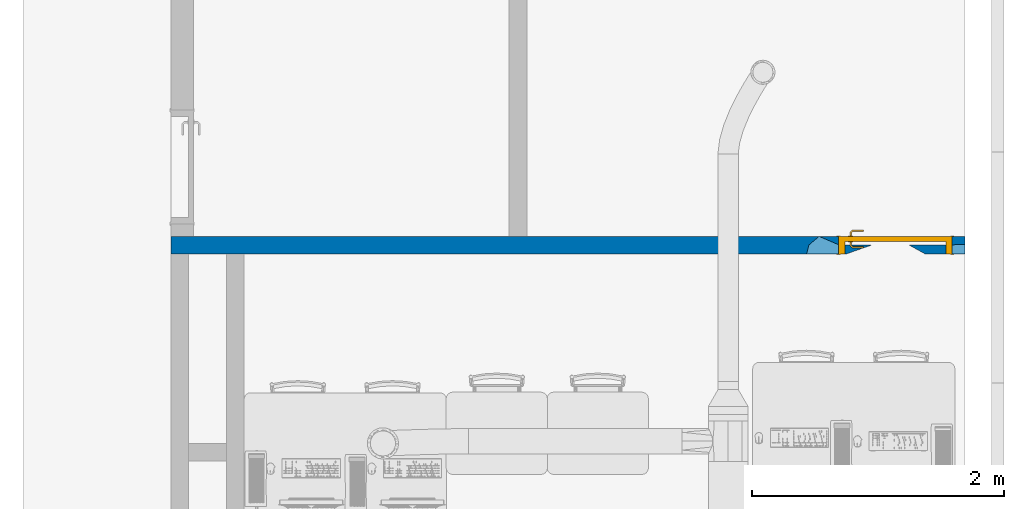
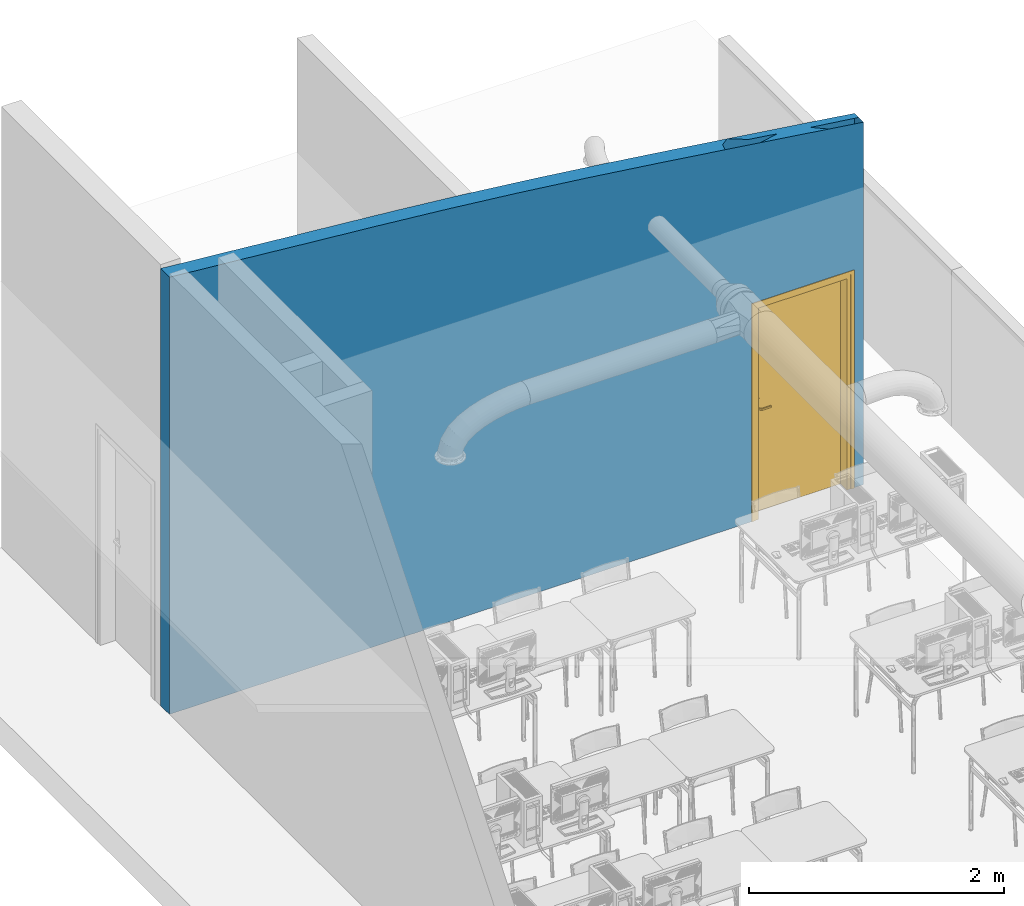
# One storey, part 4 of 31: 1 door, 1 wall, 1 opening.
"""IFC2X3 building model written with IfcOpenShell, lengths in millimetres."""

from ifc_helpers import new_model, entity, si_unit, converted_unit, derived_unit, direction, frame, frame_2d, origin, place, context, subcontext, project, spatial, rectangle, extrude, faceted_brep, source, transform, mapped, material, material_list, layer, layer_set, type_object, type_shapes, element, fill, save


model = new_model("IFC2X3")

# Units and contexts
model_context = context("Model", 3, precision=0.01, world=origin(), true_north=direction((6.123031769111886e-17, 1.0)))
body_context = subcontext(model_context, "Body", "Model", "MODEL_VIEW")
ifc_project = project(units=[si_unit("LENGTHUNIT", "METRE", prefix="MILLI"), si_unit("AREAUNIT", "SQUARE_METRE"), si_unit("VOLUMEUNIT", "CUBIC_METRE"), converted_unit("PLANEANGLEUNIT", "DEGREE", entity("IfcRatioMeasure", 0.017453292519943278), si_unit("PLANEANGLEUNIT", "RADIAN"), dimensions=[0, 0, 0, 0, 0, 0, 0]), si_unit("MASSUNIT", "GRAM", prefix="KILO"), derived_unit("MASSDENSITYUNIT", [(si_unit("MASSUNIT", "GRAM", prefix="KILO"), 1), (si_unit("LENGTHUNIT", "METRE"), -3)]), derived_unit("MOMENTOFINERTIAUNIT", [(si_unit("LENGTHUNIT", "METRE"), 4)]), si_unit("TIMEUNIT", "SECOND"), si_unit("FREQUENCYUNIT", "HERTZ"), si_unit("THERMODYNAMICTEMPERATUREUNIT", "DEGREE_CELSIUS"), derived_unit("THERMALTRANSMITTANCEUNIT", [(si_unit("MASSUNIT", "GRAM", prefix="KILO"), 1), (si_unit("THERMODYNAMICTEMPERATUREUNIT", "KELVIN"), -1), (si_unit("TIMEUNIT", "SECOND"), -3)]), derived_unit("VOLUMETRICFLOWRATEUNIT", [(si_unit("LENGTHUNIT", "METRE"), 3), (si_unit("TIMEUNIT", "SECOND"), -1)]), derived_unit("MASSFLOWRATEUNIT", [(si_unit("MASSUNIT", "GRAM", prefix="KILO"), 1), (si_unit("TIMEUNIT", "SECOND"), -1)]), derived_unit("ROTATIONALFREQUENCYUNIT", [(si_unit("TIMEUNIT", "SECOND"), -1)]), si_unit("ELECTRICCURRENTUNIT", "AMPERE"), si_unit("ELECTRICVOLTAGEUNIT", "VOLT"), si_unit("POWERUNIT", "WATT"), si_unit("FORCEUNIT", "NEWTON", prefix="KILO"), si_unit("ILLUMINANCEUNIT", "LUX"), si_unit("LUMINOUSFLUXUNIT", "LUMEN"), si_unit("LUMINOUSINTENSITYUNIT", "CANDELA"), derived_unit("USERDEFINED", [(si_unit("MASSUNIT", "GRAM", prefix="KILO"), -1), (si_unit("LENGTHUNIT", "METRE"), -2), (si_unit("TIMEUNIT", "SECOND"), 3), (si_unit("LUMINOUSFLUXUNIT", "LUMEN"), 1)]), derived_unit("SOUNDPOWERUNIT", [(si_unit("MASSUNIT", "GRAM", prefix="KILO"), 1), (si_unit("LENGTHUNIT", "METRE"), 2), (si_unit("TIMEUNIT", "SECOND"), -3)]), derived_unit("SOUNDPRESSUREUNIT", [(si_unit("MASSUNIT", "GRAM", prefix="KILO"), 1), (si_unit("LENGTHUNIT", "METRE"), -1), (si_unit("TIMEUNIT", "SECOND"), -2)]), derived_unit("LINEARVELOCITYUNIT", [(si_unit("LENGTHUNIT", "METRE"), 1), (si_unit("TIMEUNIT", "SECOND"), -1)]), si_unit("PRESSUREUNIT", "PASCAL"), derived_unit("USERDEFINED", [(si_unit("LENGTHUNIT", "METRE"), -2), (si_unit("MASSUNIT", "GRAM", prefix="KILO"), 1), (si_unit("TIMEUNIT", "SECOND"), -2)]), derived_unit("LINEARFORCEUNIT", [(si_unit("MASSUNIT", "GRAM", prefix="KILO"), 1), (si_unit("LENGTHUNIT", "METRE"), 1), (si_unit("TIMEUNIT", "SECOND"), -2), (si_unit("LENGTHUNIT", "METRE"), -1)]), derived_unit("PLANARFORCEUNIT", [(si_unit("MASSUNIT", "GRAM", prefix="KILO"), 1), (si_unit("LENGTHUNIT", "METRE"), 1), (si_unit("TIMEUNIT", "SECOND"), -2), (si_unit("LENGTHUNIT", "METRE"), -2)])], contexts=[model_context])

# Site, building, storey
site_placement = place(None, origin())
site = spatial("IfcSite", under=ifc_project, at=site_placement, Name="Default", CompositionType="ELEMENT")
building_placement = place(site_placement, origin())
building = spatial("IfcBuilding", under=site, at=building_placement, CompositionType="ELEMENT")
storey_placement = place(building_placement, frame((0.0, 0.0, 3880.0)))
storey = spatial("IfcBuildingStorey", under=building, at=storey_placement, Name="Niveau 1", CompositionType="ELEMENT", Elevation=3880.0)

# Wall, opening, door
ifc_material_1 = material(Name="Peinture")
ifc_layer = layer(ifc_material_1, 140.0)
ifc_layer_set = layer_set([ifc_layer], Name="Mur de base:Générique - 140 mm")
wall_type = type_object("IfcWallType", Name="Mur de base:Générique - 140 mm", PredefinedType="STANDARD", material=ifc_layer_set)
wall_placement = place(storey_placement, frame((-320.0, -2890.0, 0.0), z_axis=(0.0, 0.0, 1.0), x_axis=(-1.0, 0.0, 0.0)))
wall = element("IfcWall", 1, at=wall_placement, inside=storey, type_object=wall_type, Name="Mur de base:Générique - 140 mm", ObjectType="Mur de base:Générique - 140 mm", context=body_context, shape_type="Brep", body=[
    faceted_brep([(3610.0, -70.0, 0.0), (3470.0, -70.0, 0.0), (1000.0, -70.0, 0.0), (1000.0, 70.0, 0.0), (5710.0, 70.0, 0.0), (5850.0, 70.0, 0.0), (6150.0, 70.0, 0.0), (6290.0, 70.0, 0.0), (6290.0, -70.0, 0.0), (6110.0, -70.0, 0.0), (100.0, -70.0, 0.0), (0.0, -70.0, 0.0), (0.0, 70.0, 0.0), (100.0, 70.0, 0.0), (100.0, -70.0, 2075.0), (1000.0, -70.0, 2075.0), (6290.0, -70.0, 4189.61136390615), (6159.017165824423, -70.0, 4178.25464444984), (6021.568349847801, -70.0, 4166.337299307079), (5887.35252477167, -70.0, 4154.7002670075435), (5753.1366996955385, -70.0, 4143.06323470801), (5619.255191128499, -70.0, 4130.776297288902), (5485.37368256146, -70.0, 4118.4893598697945), (5351.49217399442, -70.0, 4106.202422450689), (5217.610665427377, -70.0, 4093.915485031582), (5083.441722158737, -70.0, 4082.0106236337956), (4949.272778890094, -70.0, 4070.1057622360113), (4815.103835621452, -70.0, 4058.200900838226), (4680.93489235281, -70.0, 4046.2960394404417), (4547.308556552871, -70.0, 4034.1394434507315), (4413.682220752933, -70.0, 4021.982847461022), (4280.055884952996, -70.0, 4009.8262514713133), (4146.429549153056, -70.0, 3997.6696554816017), (4012.322161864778, -70.0, 3984.2937266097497), (3878.2147745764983, -70.0, 3970.9177977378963), (3744.107387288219, -70.0, 3957.541868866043), (3610.0, -70.0, 3944.165939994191), (3540.009928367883, -70.0, 3936.776590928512), (3470.0, -70.0, 3929.2898280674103), (3325.3016832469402, -70.0, 3912.912487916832), (3180.603366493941, -70.0, 3896.5351477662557), (3035.9050497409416, -70.0, 3880.1578076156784), (2891.2067329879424, -70.0, 3863.7804674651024), (2746.7864581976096, -70.0, 3845.751863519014), (2602.366183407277, -70.0, 3827.723259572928), (2457.9459086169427, -70.0, 3809.6946556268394), (2313.5256338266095, -70.0, 3791.66605168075), (2168.140210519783, -70.0, 3772.258461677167), (2022.754787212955, -70.0, 3752.8508716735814), (1877.3693639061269, -70.0, 3733.443281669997), (1731.9839405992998, -70.0, 3714.0356916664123), (1443.429590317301, -70.0, 3674.4324289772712), (1154.8752400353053, -70.0, 3634.829166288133), (866.1861785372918, -70.0, 3594.7041161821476), (577.497117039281, -70.0, 3554.579066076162), (318.79905808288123, -70.0, 3518.3785858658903), (0.0, -70.0, 3473.767972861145), (6290.0, 70.0, 4189.61136390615), (1000.0, 70.0, 2075.0), (100.0, 70.0, 2075.0), (0.0, 70.0, 3473.767972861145), (313.59904943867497, 70.0, 3517.640348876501), (627.1980988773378, 70.0, 3561.5127248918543), (940.8042695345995, 70.0, 3605.0469282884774), (1254.4104401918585, 70.0, 3648.5811316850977), (1568.0704991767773, 70.0, 3691.4462832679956), (1881.7305581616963, 70.0, 3734.3114348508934), (2038.6712836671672, 70.0, 3754.9540929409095), (2195.612009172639, 70.0, 3775.5967510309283), (2352.552734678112, 70.0, 3796.2394091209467), (2509.493460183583, 70.0, 3816.8820672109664), (2666.6482701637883, 70.0, 3835.7882726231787), (2745.2256751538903, 70.0, 3845.2413753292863), (2823.8030801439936, 70.0, 3854.6944780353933), (2980.957890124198, 70.0, 3873.6006834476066), (3138.1127001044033, 70.0, 3892.5068888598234), (3216.803204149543, 70.0, 3901.0010811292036), (3295.4937081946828, 70.0, 3909.4952733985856), (3374.1842122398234, 70.0, 3917.9894656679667), (3452.8747162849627, 70.0, 3926.4836579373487), (3531.565220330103, 70.0, 3934.977850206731), (3610.255724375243, 70.0, 3943.472042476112), (3688.9462284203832, 70.0, 3951.966234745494), (3767.6367324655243, 70.0, 3960.460427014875), (3846.421309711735, 70.0, 3968.0228427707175), (3925.205886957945, 70.0, 3975.58525852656), (4003.990464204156, 70.0, 3983.1476742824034), (4082.7750414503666, 70.0, 3990.7100900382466), (4161.559618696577, 70.0, 3998.272505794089), (4240.344195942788, 70.0, 4005.834921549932), (4319.128773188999, 70.0, 4013.3973373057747), (4397.913350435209, 70.0, 4020.9597530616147), (4476.744415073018, 70.0, 4027.970440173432), (4555.575479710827, 70.0, 4034.981127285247), (4634.406544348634, 70.0, 4041.9918143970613), (4713.237608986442, 70.0, 4049.0025015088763), (4792.0686736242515, 70.0, 4056.0131886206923), (4870.899738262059, 70.0, 4063.0238757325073), (4949.730802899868, 70.0, 4070.034562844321), (5028.561867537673, 70.0, 4077.045249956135), (5186.201624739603, 70.0, 4091.3729329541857), (5343.841381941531, 70.0, 4105.700615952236), (5501.481139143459, 70.0, 4120.028298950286), (5659.1208963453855, 70.0, 4134.355981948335), (5816.840672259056, 70.0, 4148.169827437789), (5974.560448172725, 70.0, 4161.983672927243), (6132.280224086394, 70.0, 4175.797518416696), (6290.0, 4.725194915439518, 4189.61136390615), (0.0, -4.72519087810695, 3473.767972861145), (3178.2762842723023, 3.7296987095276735, 3897.070837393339), (4612.61810252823, -1.7276866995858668, 4040.232029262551), (4477.763066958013, 1.870215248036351, 4028.1756264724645), (3591.1708300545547, 0.25118273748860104, 3942.187377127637), (3505.0423053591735, 2.897141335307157, 3933.0491181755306), (3399.627800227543, -4.356277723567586, 3921.668318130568), (3313.6820589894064, 0.11617417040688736, 3912.229892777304), (5081.226038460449, 5.753242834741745, 4081.725453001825), (4922.700496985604, 6.771500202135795, 4067.6688495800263), (4044.0776176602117, 1.5391910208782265, 3987.8829398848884), (3077.98824960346, 4.848534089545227, 3885.6173345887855), (5574.530361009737, 12.92558032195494, 4126.494963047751), (5693.155217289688, -3.5380850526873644, 4137.515432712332), (5181.621780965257, -2.484564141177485, 4090.68762886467), (4824.2608190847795, 3.1977069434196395, 4058.9704020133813), (4698.57770500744, -0.6361273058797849, 4047.8588501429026), (2566.0755756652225, -1.0430661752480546, 3824.0326860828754), (2670.6092907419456, -3.4750835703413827, 3837.06788730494), (4344.6312164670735, -4.036086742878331, 4016.1035824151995), (4134.177683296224, 6.323474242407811, 3996.5084654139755), (2800.4503640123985, 0.12815904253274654, 3852.921558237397), (6075.527843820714, -3.732438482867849, 4171.862913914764), (5945.453726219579, -4.368366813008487, 4160.506380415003), (1953.0196555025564, -3.6174336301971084, 3743.906974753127), (2119.2511827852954, -1.6800642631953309, 3766.107850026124), (5280.631311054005, -2.792779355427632, 4099.5899842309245), (732.8839115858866, -3.108080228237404, 3576.2428376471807), (1582.7509360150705, -6.841861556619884, 3693.6943672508), (1235.3969284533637, -2.1822992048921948, 3645.956551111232), (439.77683784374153, 0.12797305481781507, 3535.3462093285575), (2443.9067914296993, 4.7332687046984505, 3808.516462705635), (999.421447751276, -3.6414228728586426, 3613.2954603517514), (3728.958088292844, 3.140801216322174, 3956.5068758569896), (4260.462003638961, 0.20365691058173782, 4008.3519091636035), (2322.580467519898, 3.3803375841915, 3792.8449555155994), (5814.062536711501, -5.046878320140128, 4148.6566477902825), (2983.194012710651, -6.95220251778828, 3874.6165408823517), (5409.748504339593, 3.4348253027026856, 4111.314280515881), (2893.4431463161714, 10.255495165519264, 3864.0458599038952), (3829.174227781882, 3.183461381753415, 3966.691049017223), (1774.8189924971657, 6.348134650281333, 3719.8507327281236), (3915.6427297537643, -3.0964296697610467, 3975.3230682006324)], [[[0, 1, 2, 3, 4, 5, 6, 7, 8, 9]], [[10, 11, 12, 13]], [[11, 10, 14, 15, 2, 1, 0, 9, 8, 16, 17, 18, 19, 20, 21, 22, 23, 24, 25, 26, 27, 28, 29, 30, 31, 32, 33, 34, 35, 36, 37, 38, 39, 40, 41, 42, 43, 44, 45, 46, 47, 48, 49, 50, 51, 52, 53, 54, 55, 56]], [[57, 7, 6, 5, 4, 3, 58, 59, 13, 12, 60, 61, 62, 63, 64, 65, 66, 67, 68, 69, 70, 71, 72, 73, 74, 75, 76, 77, 78, 79, 80, 81, 82, 83, 84, 85, 86, 87, 88, 89, 90, 91, 92, 93, 94, 95, 96, 97, 98, 99, 100, 101, 102, 103, 104, 105, 106]], [[16, 8, 7, 57, 107]], [[12, 11, 56, 108, 60]], [[10, 13, 59, 14]], [[14, 59, 58, 15]], [[15, 58, 3, 2]], [[109, 76, 75]], [[110, 111, 29]], [[106, 107, 57]], [[112, 80, 113]], [[29, 111, 30]], [[39, 38, 114]], [[78, 77, 76, 115]], [[116, 117, 26]], [[17, 16, 107]], [[118, 87, 86]], [[40, 109, 119]], [[103, 120, 121]], [[25, 122, 116]], [[80, 112, 82, 81]], [[123, 124, 27]], [[71, 125, 126]], [[37, 113, 38]], [[127, 91, 90]], [[124, 94, 110]], [[112, 37, 36]], [[37, 112, 113]], [[128, 87, 118]], [[129, 73, 72]], [[130, 105, 131]], [[130, 107, 106]], [[132, 48, 133]], [[24, 23, 134]], [[114, 38, 113]], [[135, 63, 62]], [[136, 137, 51]], [[18, 17, 130]], [[138, 62, 61]], [[139, 46, 45]], [[114, 113, 79]], [[64, 63, 140]], [[112, 36, 141]], [[127, 142, 31]], [[137, 64, 140]], [[139, 69, 143]], [[53, 135, 54]], [[54, 135, 138]], [[104, 121, 144]], [[68, 67, 133]], [[145, 41, 119]], [[131, 144, 19]], [[40, 39, 115]], [[115, 39, 114]], [[131, 18, 130]], [[28, 110, 29]], [[107, 130, 17]], [[105, 130, 106]], [[103, 121, 104]], [[131, 105, 144]], [[105, 104, 144]], [[19, 144, 20]], [[19, 18, 131]], [[120, 22, 21]], [[120, 103, 102]], [[20, 144, 121]], [[100, 122, 134]], [[21, 20, 121]], [[102, 146, 120]], [[21, 121, 120]], [[142, 128, 32]], [[68, 133, 143]], [[31, 30, 127]], [[146, 23, 22]], [[120, 146, 22]], [[102, 101, 146]], [[134, 146, 101]], [[146, 134, 23]], [[134, 122, 24]], [[100, 134, 101]], [[116, 100, 99]], [[25, 24, 122]], [[119, 41, 40]], [[129, 147, 73]], [[117, 97, 123]], [[111, 93, 92, 91]], [[80, 79, 113]], [[127, 111, 91]], [[115, 114, 78]], [[109, 75, 119]], [[76, 109, 115]], [[115, 109, 40]], [[75, 74, 119]], [[145, 119, 74]], [[147, 74, 73]], [[42, 41, 145]], [[94, 124, 96, 95]], [[123, 26, 117]], [[83, 141, 148]], [[32, 128, 118]], [[70, 125, 71]], [[145, 147, 42]], [[135, 53, 140]], [[63, 135, 140]], [[108, 55, 138]], [[53, 52, 140]], [[61, 60, 108]], [[108, 56, 55]], [[138, 55, 54]], [[140, 52, 137]], [[136, 65, 64]], [[136, 50, 149]], [[137, 52, 51]], [[137, 136, 64]], [[69, 139, 70]], [[125, 70, 139]], [[46, 139, 143]], [[125, 45, 44]], [[45, 125, 139]], [[125, 44, 126]], [[69, 68, 143]], [[143, 47, 46]], [[47, 133, 48]], [[133, 47, 143]], [[67, 132, 133]], [[132, 67, 66]], [[149, 132, 66]], [[149, 49, 132]], [[66, 65, 149]], [[136, 149, 65]], [[44, 43, 126]], [[126, 72, 71]], [[129, 126, 43]], [[126, 129, 72]], [[42, 129, 43]], [[42, 147, 129]], [[74, 147, 145]], [[49, 149, 50]], [[49, 48, 132]], [[50, 136, 51]], [[141, 35, 148]], [[112, 141, 82]], [[141, 36, 35]], [[83, 82, 141]], [[148, 35, 34]], [[150, 148, 34]], [[150, 84, 148]], [[34, 33, 150]], [[150, 86, 85, 84]], [[118, 150, 33]], [[150, 118, 86]], [[32, 118, 33]], [[142, 32, 31]], [[142, 88, 128]], [[114, 79, 78]], [[88, 87, 128]], [[110, 28, 124]], [[111, 110, 93]], [[28, 27, 124]], [[124, 123, 96]], [[97, 96, 123]], [[26, 123, 27]], [[116, 26, 25]], [[117, 99, 98, 97]], [[111, 127, 30]], [[90, 89, 88, 142]], [[142, 127, 90]], [[100, 116, 122]], [[117, 116, 99]], [[62, 138, 135]], [[108, 138, 61]], [[84, 83, 148]], [[94, 93, 110]]]),
])
opening_placement = place(wall_placement, frame((1000.0, 70.0, 0.0)))
opening = element("IfcOpeningElement", 2, at=opening_placement, cuts=wall, Name="Int. Simple:PP (0.83m x 2.04m):1", ObjectType="Opening", context=body_context, shape_type="SweptSolid", body=[
    extrude(rectangle(XDim=2075.0, YDim=900.0000000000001, at=frame_2d((1037.5, 450.00000000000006), x_axis=(1.0, 0.0))), frame((0.0, 0.0, 0.0), z_axis=(0.0, -1.0, 0.0), x_axis=(0.0, 0.0, 1.0)), (0.0, 0.0, 1.0), 139.99999999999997),
])
ifc_material_2 = material(Name="Finition Peinture - Blanc satiné")
ifc_material_3 = material(Name="Bois - Panneau de porte")
ifc_material_4 = material(Name="Bois - Cadre de porte")
ifc_material_list_1 = material_list([ifc_material_2, ifc_material_3, ifc_material_4])
ifc_material_list_2 = material_list([ifc_material_2, ifc_material_2, ifc_material_2, ifc_material_2, ifc_material_3, ifc_material_4, ifc_material_4, ifc_material_4])
door_style = type_object("IfcDoorStyle", Name="Int. Simple:PP (0.83m x 2.04m)", ConstructionType="NOTDEFINED", OperationType="SINGLE_SWING_RIGHT", ParameterTakesPrecedence=False, Sizeable=False, material=ifc_material_list_2)
shared_shape = source(origin(), body_context, "Body", "Brep", [
    faceted_brep([(895.0, -5.0, 870.0), (895.0, -5.0, 1080.0), (885.3527618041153, -5.0, 1083.996016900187), (875.0, -5.0, 1085.3589838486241), (864.6472381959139, -5.0, 1083.9960169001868), (855.0, -5.0, 1080.0), (855.0, -5.0, 870.0), (864.6472381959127, -5.0, 866.003983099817), (875.0, -5.0, 864.6410161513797), (885.3527618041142, -5.0, 866.003983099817), (895.0, 0.0, 1080.0), (895.0, 0.0, 870.0), (885.3527618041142, 0.0, 866.003983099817), (875.0, 0.0, 864.6410161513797), (864.6472381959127, 0.0, 866.003983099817), (855.0, 0.0, 870.0), (855.0, 0.0, 1080.0), (864.6472381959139, 0.0, 1083.9960169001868), (875.0, 0.0, 1085.3589838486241), (885.3527618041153, 0.0, 1083.996016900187)], [[[0, 1, 2, 3, 4, 5, 6, 7, 8, 9]], [[10, 11, 12, 13, 14, 15, 16, 17, 18, 19]], [[9, 12, 11, 0]], [[8, 13, 12, 9]], [[7, 14, 13, 8]], [[7, 6, 15, 14]], [[15, 6, 5, 16]], [[4, 17, 16, 5]], [[3, 18, 17, 4]], [[2, 19, 18, 3]], [[2, 1, 10, 19]], [[11, 10, 1, 0]]]),
    faceted_brep([(895.0, 40.0, 870.0), (895.0, 40.0, 1080.0), (885.3527618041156, 40.0, 1083.9960169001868), (875.0, 40.0, 1085.3589838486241), (864.6472381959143, 40.0, 1083.996016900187), (855.0, 40.0, 1080.0), (855.0, 40.0, 870.0), (864.6472381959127, 40.0, 866.003983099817), (875.0, 40.0, 864.6410161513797), (885.3527618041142, 40.0, 866.0039830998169), (875.0, 45.0, 1085.3589838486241), (885.3527618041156, 45.0, 1083.9960169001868), (895.0, 45.0, 1080.0), (895.0, 45.0, 870.0), (885.3527618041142, 45.0, 866.0039830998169), (875.0, 45.0, 864.6410161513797), (864.6472381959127, 45.0, 866.003983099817), (855.0, 45.0, 870.0), (855.0, 45.0, 1080.0), (864.6472381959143, 45.0, 1083.996016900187)], [[[0, 1, 2, 3, 4, 5, 6, 7, 8, 9]], [[10, 11, 12, 13, 14, 15, 16, 17, 18, 19]], [[4, 19, 18, 5]], [[3, 10, 19, 4]], [[2, 11, 10, 3]], [[2, 1, 12, 11]], [[13, 12, 1, 0]], [[9, 14, 13, 0]], [[8, 15, 14, 9]], [[7, 16, 15, 8]], [[7, 6, 17, 16]], [[17, 6, 5, 18]]]),
    faceted_brep([(872.9747013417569, -5.0, 1007.7804408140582), (877.0252986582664, -5.0, 1007.7804408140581), (881.0, -5.0, 1007.0), (881.0, -5.0, 993.0), (877.0252986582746, -5.0, 992.21955918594), (872.9747013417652, -5.0, 992.2195591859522), (869.0, -5.0, 993.0), (869.0, -5.0, 1007.0), (877.0252986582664, -31.00457549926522, 1007.7804408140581), (881.0, -32.65095070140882, 1007.0), (872.9747013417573, -29.326763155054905, 1007.7804408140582), (859.298602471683, -43.00286202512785, 1007.7804408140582), (860.9764148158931, -47.053459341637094, 1007.7804408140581), (869.0, -27.68038795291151, 1007.0), (869.0, -27.680387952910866, 993.0), (872.9747013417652, -29.326763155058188, 992.2195591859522), (877.0252986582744, -31.004575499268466, 992.21955918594), (860.9764148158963, -47.053459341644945, 992.21955918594), (859.2986024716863, -43.00286202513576, 992.2195591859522), (881.0, -32.650950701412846, 993.0), (862.6227900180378, -51.028160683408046, 1007.0), (857.6522272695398, -39.02816068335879, 1007.0), (857.6522272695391, -39.02816068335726, 993.0), (862.6227900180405, -51.02816068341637, 993.0), (774.9813593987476, -51.0281606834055, 1007.0), (774.9813593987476, -47.05345934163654, 1007.7804408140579), (774.9813593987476, -43.002862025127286, 1007.780440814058), (774.9813593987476, -39.028160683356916, 1007.0), (774.9813593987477, -39.028160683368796, 993.0), (774.9813593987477, -43.00286202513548, 992.219559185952), (774.9813593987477, -47.05345934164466, 992.2195591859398), (774.9813593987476, -51.028160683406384, 993.0), (817.13998091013, -45.028160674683, 1007.878686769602), (822.6923027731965, -51.028160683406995, 1007.0), (816.3167933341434, -39.028160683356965, 1007.0), (816.3167933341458, -39.028160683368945, 993.0), (817.1399811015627, -45.02816075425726, 992.1213132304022), (822.6923104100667, -51.02816068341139, 993.0)], [[[0, 1, 2, 3, 4, 5, 6, 7]], [[2, 1, 8, 9]], [[1, 0, 10, 11, 12, 8]], [[0, 7, 13, 10]], [[14, 13, 7, 6]], [[5, 15, 14, 6]], [[5, 4, 16, 17, 18, 15]], [[3, 19, 16, 4]], [[9, 19, 3, 2]], [[9, 8, 12, 20]], [[10, 13, 21, 11]], [[22, 21, 13, 14]], [[14, 15, 18, 22]], [[16, 19, 23, 17]], [[20, 23, 19, 9]], [[24, 25, 26, 27, 28, 29, 30, 31]], [[32, 25, 33]], [[33, 25, 24]], [[33, 20, 12]], [[11, 34, 32]], [[34, 11, 21]], [[27, 26, 34]], [[32, 26, 25]], [[32, 34, 26]], [[32, 33, 12]], [[11, 32, 12]], [[21, 22, 35, 28, 27, 34]], [[36, 29, 35]], [[30, 36, 37]], [[18, 35, 22]], [[29, 28, 35]], [[30, 37, 31]], [[37, 17, 23]], [[36, 17, 37]], [[36, 18, 17]], [[36, 35, 18]], [[29, 36, 30]], [[23, 20, 33, 24, 31, 37]]]),
    faceted_brep([(872.9747013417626, 45.0, 992.2195591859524), (877.0252986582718, 45.0, 992.2195591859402), (881.0, 45.0, 993.0), (881.0, 45.0, 1007.0), (877.0252986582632, 45.0, 1007.7804408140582), (872.9747013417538, 45.0, 1007.7804408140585), (869.0, 45.0, 1007.0), (869.0, 45.0, 993.0), (869.0, 67.48520450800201, 1007.0), (869.0, 67.48520450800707, 993.0), (872.9747013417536, 69.1315797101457, 1007.7804408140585), (877.0252986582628, 70.80939205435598, 1007.7804408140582), (860.8389061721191, 86.9957845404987, 1007.7804408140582), (859.161093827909, 82.94518722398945, 1007.7804408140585), (881.0, 72.45576725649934, 1007.0), (881.0, 72.45576725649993, 993.0), (877.025298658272, 70.80939205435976, 992.2195591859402), (872.9747013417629, 69.13157971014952, 992.2195591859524), (859.1610938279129, 82.94518722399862, 992.2195591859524), (860.8389061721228, 86.9957845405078, 992.2195591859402), (857.5147186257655, 78.9704858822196, 1007.0), (857.5147186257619, 78.97048588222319, 993.0), (862.4852813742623, 90.9704858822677, 1007.0), (862.4852813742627, 90.97048588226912, 993.0), (774.9542163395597, 82.94518722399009, 1007.7804408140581), (774.9542163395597, 86.99578454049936, 1007.780440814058), (774.9542163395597, 90.9704858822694, 1007.0), (774.9542163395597, 90.97048588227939, 993.0), (774.9542163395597, 86.99578454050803, 992.2195591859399), (774.9542163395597, 82.94518722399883, 992.2195591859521), (774.9542163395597, 78.97048588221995, 993.0), (774.9542163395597, 78.97048588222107, 1007.0), (816.2344674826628, 78.97048588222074, 1007.0), (816.2344794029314, 78.97048588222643, 993.0), (817.0576551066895, 84.97048589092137, 1007.8786867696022), (822.5547942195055, 90.97048588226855, 1007.0), (822.5547956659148, 90.97048588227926, 993.0), (817.0576548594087, 84.97048581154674, 992.1213132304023)], [[[0, 1, 2, 3, 4, 5, 6, 7]], [[8, 9, 7, 6]], [[5, 10, 8, 6]], [[5, 4, 11, 12, 13, 10]], [[3, 14, 11, 4]], [[14, 3, 2, 15]], [[2, 1, 16, 15]], [[1, 0, 17, 18, 19, 16]], [[0, 7, 9, 17]], [[20, 21, 9, 8]], [[8, 10, 13, 20]], [[14, 22, 12, 11]], [[23, 22, 14, 15]], [[15, 16, 19, 23]], [[17, 9, 21, 18]], [[24, 25, 26, 27, 28, 29, 30, 31]], [[21, 20, 32, 31, 30, 33]], [[34, 24, 32]], [[25, 34, 35]], [[13, 32, 20]], [[24, 31, 32]], [[25, 35, 26]], [[35, 12, 22]], [[34, 12, 35]], [[34, 13, 12]], [[34, 32, 13]], [[24, 34, 25]], [[22, 23, 36, 27, 26, 35]], [[37, 28, 36]], [[36, 28, 27]], [[36, 23, 19]], [[18, 33, 37]], [[33, 18, 21]], [[30, 29, 33]], [[37, 29, 28]], [[37, 33, 29]], [[37, 36, 19]], [[18, 37, 19]]]),
    faceted_brep([(935.0, 40.0, 2040.0), (935.0, 40.0, 0.0), (105.0, 40.0, 0.0), (105.0, 40.0, 2040.0), (935.0, 0.0, 2040.0), (105.0, 0.0, 2040.0), (105.0, 0.0, 0.0), (935.0, 0.0, 0.0)], [[[0, 1, 2, 3]], [[4, 5, 6, 7]], [[3, 5, 4, 0]], [[2, 6, 5, 3]], [[1, 7, 6, 2]], [[0, 4, 7, 1]]]),
    faceted_brep([(970.0, 0.0, 0.0), (935.0, 0.0, 0.0), (935.0, 40.0, 0.0), (920.0, 40.0, 0.0), (920.0, 140.0, 0.0), (970.0, 140.0, 0.0), (970.0, 140.0, 2075.0), (970.0, 0.0, 2075.0), (920.0, 140.0, 2025.0), (120.0, 140.0, 2025.0), (120.0, 140.0, 0.0), (70.0, 140.0, 0.0), (70.0, 140.0, 2075.0), (920.0, 40.0, 2025.0), (935.0, 40.0, 2040.0), (105.0, 40.0, 2040.0), (105.0, 40.0, 0.0), (120.0, 40.0, 0.0), (120.0, 40.0, 2025.0), (935.0, 0.0, 2040.0), (70.0, 0.0, 2075.0), (70.0, 0.0, 0.0), (105.0, 0.0, 0.0), (105.0, 0.0, 2040.0)], [[[0, 1, 2, 3, 4, 5]], [[5, 6, 7, 0]], [[4, 8, 9, 10, 11, 12, 6, 5]], [[3, 13, 8, 4]], [[2, 14, 15, 16, 17, 18, 13, 3]], [[1, 19, 14, 2]], [[0, 7, 20, 21, 22, 23, 19, 1]], [[12, 11, 21, 20]], [[21, 11, 10, 17, 16, 22]], [[18, 17, 10, 9]], [[23, 22, 16, 15]], [[6, 12, 20, 7]], [[13, 18, 9, 8]], [[19, 23, 15, 14]]]),
    faceted_brep([(955.0, 140.0, 0.0), (955.0, 145.0, 0.0), (985.0, 145.0, 0.0), (985.0, 140.0, 0.0), (985.0, 140.0, 2090.0), (55.0, 140.0, 2090.0), (55.0, 140.0, 0.0), (85.0, 140.0, 0.0), (85.0, 140.0, 2060.0), (955.0, 140.0, 2060.0), (985.0, 145.0, 2090.0), (955.0, 145.0, 2060.0), (85.0, 145.0, 2060.0), (85.0, 145.0, 0.0), (55.0, 145.0, 0.0), (55.0, 145.0, 2090.0)], [[[0, 1, 2, 3]], [[3, 4, 5, 6, 7, 8, 9, 0]], [[2, 10, 4, 3]], [[1, 11, 12, 13, 14, 15, 10, 2]], [[0, 9, 11, 1]], [[7, 6, 14, 13]], [[8, 7, 13, 12]], [[15, 14, 6, 5]], [[10, 15, 5, 4]], [[9, 8, 12, 11]]]),
    faceted_brep([(985.0, -5.0, 0.0), (985.0, -5.0, 2090.0), (55.0, -5.0, 2090.0), (55.0, -5.0, 0.0), (85.0, -5.0, 0.0), (85.0, -5.0, 2060.0), (955.0, -5.0, 2060.0), (955.0, -5.0, 0.0), (985.0, 0.0, 0.0), (985.0, 0.0, 2090.0), (955.0, 0.0, 0.0), (955.0, 0.0, 2060.0), (85.0, 0.0, 2060.0), (85.0, 0.0, 0.0), (55.0, 0.0, 0.0), (55.0, 0.0, 2090.0)], [[[0, 1, 2, 3, 4, 5, 6, 7]], [[8, 9, 1, 0]], [[10, 11, 12, 13, 14, 15, 9, 8]], [[7, 6, 11, 10]], [[5, 4, 13, 12]], [[15, 14, 3, 2]], [[9, 15, 2, 1]], [[6, 5, 12, 11]], [[4, 3, 14, 13]], [[7, 10, 8, 0]]]),
])
type_shapes(door_style, [shared_shape])
door_placement = place(opening_placement, frame((-970.0, -140.0, 0.0)))
door = element("IfcDoor", 3, at=door_placement, inside=storey, type_object=door_style, material=ifc_material_list_1, Name="Int. Simple:PP (0.83m x 2.04m)", ObjectType="Int. Simple:PP (0.83m x 2.04m)", OverallHeight=2075.0, OverallWidth=900.0000000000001, context=body_context, shape_type="MappedRepresentation", body=[
    mapped(shared_shape, transform((0.0, 0.0, 0.0), scale=1.0)),
])
fill(opening, door)

save(model, "model.ifc")
